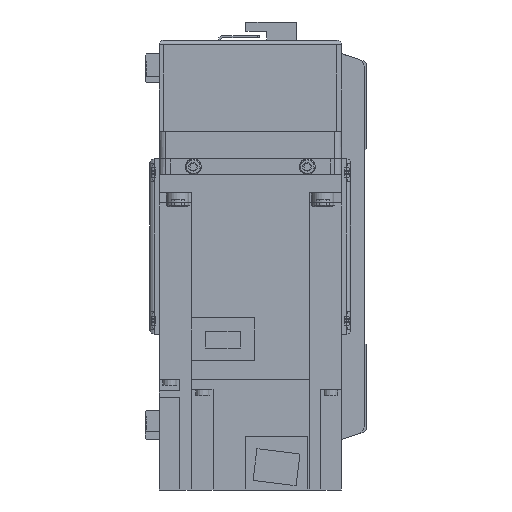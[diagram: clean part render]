
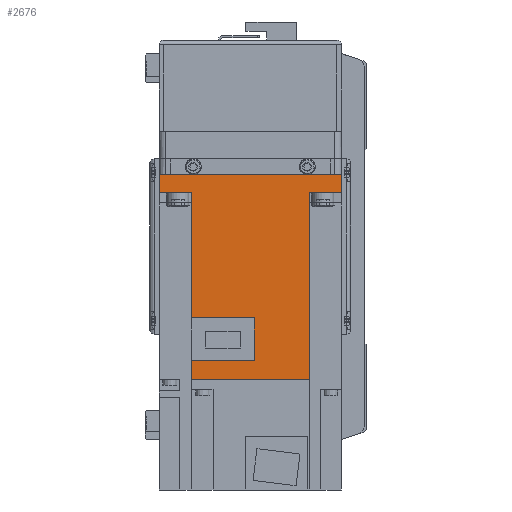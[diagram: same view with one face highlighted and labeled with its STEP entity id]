
A CAD part, left-side view. The second image highlights one B-rep face of the part: STEP entity #2676.
In plain terms, the highlighted planar face has unit normal (-1, 0, 0) as drawn and (1, 0, 0) by its records, which use the part's own axes.
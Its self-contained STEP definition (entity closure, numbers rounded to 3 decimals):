
#2676 = ADVANCED_FACE( '', ( #5934 ), #5935, .F. );
#5934 = FACE_OUTER_BOUND( '', #9800, .T. );
#5935 = PLANE( '', #9801 );
#9800 = EDGE_LOOP( '', ( #17311, #17312, #17313, #17314, #17315, #17316, #17317, #17318, #17319, #17320, #17321, #17322 ) );
#9801 = AXIS2_PLACEMENT_3D( '', #17323, #17324, #17325 );
#17311 = ORIENTED_EDGE( '', *, *, #21798, .F. );
#17312 = ORIENTED_EDGE( '', *, *, #24446, .F. );
#17313 = ORIENTED_EDGE( '', *, *, #22179, .F. );
#17314 = ORIENTED_EDGE( '', *, *, #23978, .T. );
#17315 = ORIENTED_EDGE( '', *, *, #24447, .F. );
#17316 = ORIENTED_EDGE( '', *, *, #22833, .T. );
#17317 = ORIENTED_EDGE( '', *, *, #24259, .T. );
#17318 = ORIENTED_EDGE( '', *, *, #24448, .F. );
#17319 = ORIENTED_EDGE( '', *, *, #24449, .F. );
#17320 = ORIENTED_EDGE( '', *, *, #24450, .F. );
#17321 = ORIENTED_EDGE( '', *, *, #21553, .F. );
#17322 = ORIENTED_EDGE( '', *, *, #23973, .F. );
#17323 = CARTESIAN_POINT( '', ( 40., 89.8, 40. ) );
#17324 = DIRECTION( '', ( -1., 0., 0. ) );
#17325 = DIRECTION( '', ( 0., 0., 1. ) );
#21553 = EDGE_CURVE( '', #25497, #25498, #25499, .T. );
#21798 = EDGE_CURVE( '', #25930, #25932, #25933, .T. );
#22179 = EDGE_CURVE( '', #26600, #26596, #26602, .T. );
#22833 = EDGE_CURVE( '', #27683, #27681, #27684, .T. );
#23973 = EDGE_CURVE( '', #25932, #25497, #29415, .T. );
#23978 = EDGE_CURVE( '', #26600, #29421, #29423, .T. );
#24259 = EDGE_CURVE( '', #27681, #29829, #29831, .T. );
#24446 = EDGE_CURVE( '', #26596, #25930, #30083, .T. );
#24447 = EDGE_CURVE( '', #27683, #29421, #30084, .T. );
#24448 = EDGE_CURVE( '', #30085, #29829, #30086, .T. );
#24449 = EDGE_CURVE( '', #30087, #30085, #30088, .T. );
#24450 = EDGE_CURVE( '', #25498, #30087, #30089, .T. );
#25497 = VERTEX_POINT( '', #31397 );
#25498 = VERTEX_POINT( '', #31398 );
#25499 = LINE( '', #31399, #31400 );
#25930 = VERTEX_POINT( '', #32085 );
#25932 = VERTEX_POINT( '', #32088 );
#25933 = LINE( '', #32089, #32090 );
#26596 = VERTEX_POINT( '', #33085 );
#26600 = VERTEX_POINT( '', #33091 );
#26602 = LINE( '', #33094, #33095 );
#27681 = VERTEX_POINT( '', #34834 );
#27683 = VERTEX_POINT( '', #34837 );
#27684 = LINE( '', #34838, #34839 );
#29415 = LINE( '', #37491, #37492 );
#29421 = VERTEX_POINT( '', #37500 );
#29423 = LINE( '', #37503, #37504 );
#29829 = VERTEX_POINT( '', #38183 );
#29831 = LINE( '', #38186, #38187 );
#30083 = LINE( '', #38578, #38579 );
#30084 = LINE( '', #38580, #38581 );
#30085 = VERTEX_POINT( '', #38582 );
#30086 = LINE( '', #38583, #38584 );
#30087 = VERTEX_POINT( '', #38585 );
#30088 = LINE( '', #38586, #38587 );
#30089 = LINE( '', #38588, #38589 );
#31397 = CARTESIAN_POINT( '', ( 40., 62.8, 1.8 ) );
#31398 = CARTESIAN_POINT( '', ( 40., 62.8, -25.95 ) );
#31399 = CARTESIAN_POINT( '', ( 40., 62.8, 1.8 ) );
#31400 = VECTOR( '', #40560, 1000. );
#32085 = CARTESIAN_POINT( '', ( 40., 81.4, -25.95 ) );
#32088 = CARTESIAN_POINT( '', ( 40., 81.4, 1.8 ) );
#32089 = CARTESIAN_POINT( '', ( 40., 81.4, -26. ) );
#32090 = VECTOR( '', #40863, 1000. );
#33085 = CARTESIAN_POINT( '', ( 40., 89.8, -25.95 ) );
#33091 = CARTESIAN_POINT( '', ( 40., 89.8, 25.95 ) );
#33094 = CARTESIAN_POINT( '', ( 40., 89.8, 40. ) );
#33095 = VECTOR( '', #41352, 1000. );
#34834 = CARTESIAN_POINT( '', ( 40., 0., 40. ) );
#34837 = CARTESIAN_POINT( '', ( 40., 8., 40. ) );
#34838 = CARTESIAN_POINT( '', ( 40., 89.8, 40. ) );
#34839 = VECTOR( '', #42146, 1000. );
#37491 = CARTESIAN_POINT( '', ( 40., 81.4, 1.8 ) );
#37492 = VECTOR( '', #43560, 1000. );
#37500 = CARTESIAN_POINT( '', ( 40., 8., 25.95 ) );
#37503 = CARTESIAN_POINT( '', ( 40., 158., 25.95 ) );
#37504 = VECTOR( '', #43564, 1000. );
#38183 = CARTESIAN_POINT( '', ( 40., 0., -40. ) );
#38186 = CARTESIAN_POINT( '', ( 40., 0., 40. ) );
#38187 = VECTOR( '', #43928, 1000. );
#38578 = CARTESIAN_POINT( '', ( 40., 158., -25.95 ) );
#38579 = VECTOR( '', #44161, 1000. );
#38580 = CARTESIAN_POINT( '', ( 40., 8., 40. ) );
#38581 = VECTOR( '', #44162, 1000. );
#38582 = CARTESIAN_POINT( '', ( 40., 8., -40. ) );
#38583 = CARTESIAN_POINT( '', ( 40., 89.8, -40. ) );
#38584 = VECTOR( '', #44163, 1000. );
#38585 = CARTESIAN_POINT( '', ( 40., 8., -25.95 ) );
#38586 = CARTESIAN_POINT( '', ( 40., 8., 40. ) );
#38587 = VECTOR( '', #44164, 1000. );
#38588 = CARTESIAN_POINT( '', ( 40., 158., -25.95 ) );
#38589 = VECTOR( '', #44165, 1000. );
#40560 = DIRECTION( '', ( 0., 0., -1. ) );
#40863 = DIRECTION( '', ( 0., 0., 1. ) );
#41352 = DIRECTION( '', ( 0., 0., -1. ) );
#42146 = DIRECTION( '', ( 0., -1., 0. ) );
#43560 = DIRECTION( '', ( 0., -1., 0. ) );
#43564 = DIRECTION( '', ( 0., -1., 0. ) );
#43928 = DIRECTION( '', ( 0., 0., -1. ) );
#44161 = DIRECTION( '', ( 0., -1., 0. ) );
#44162 = DIRECTION( '', ( 0., 0., -1. ) );
#44163 = DIRECTION( '', ( 0., -1., 0. ) );
#44164 = DIRECTION( '', ( 0., 0., -1. ) );
#44165 = DIRECTION( '', ( 0., -1., 0. ) );
